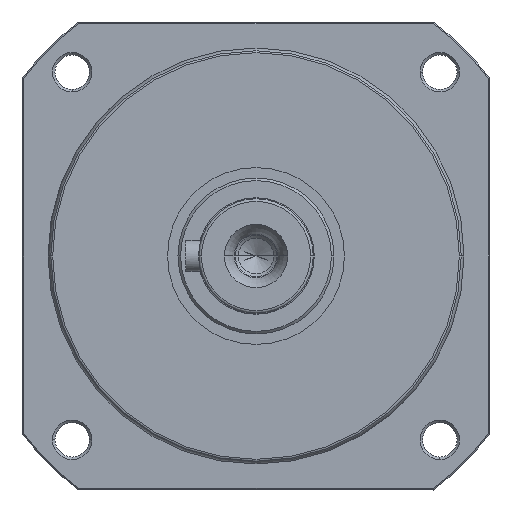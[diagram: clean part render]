
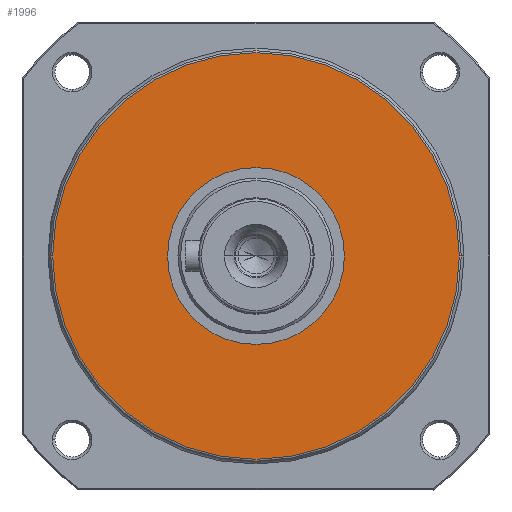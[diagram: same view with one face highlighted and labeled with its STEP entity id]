
A CAD part, left-side view. The second image highlights one B-rep face of the part: STEP entity #1996.
In plain terms, the highlighted planar face has unit normal (-1, 0, 0).
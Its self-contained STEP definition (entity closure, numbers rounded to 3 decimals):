
#1041=CARTESIAN_POINT('',(0.,0.,0.));
#1042=DIRECTION('',(-1.,0.,0.));
#1043=DIRECTION('',(0.,1.,0.));
#1044=AXIS2_PLACEMENT_3D('',#1041,#1042,#1043);
#1046=CARTESIAN_POINT('',(0.,0.,0.));
#1047=DIRECTION('',(-1.,0.,0.));
#1048=DIRECTION('',(0.,-1.,0.));
#1049=AXIS2_PLACEMENT_3D('',#1046,#1047,#1048);
#1957=CARTESIAN_POINT('',(0.,39.103,
0.));
#1958=CARTESIAN_POINT('',(0.,-39.103,
0.));
#1959=VERTEX_POINT('',#1957);
#1960=VERTEX_POINT('',#1958);
#1985=CARTESIAN_POINT('',(0.,0.,0.));
#1986=DIRECTION('',(1.,0.,0.));
#1987=DIRECTION('',(0.,-1.,0.));
#1988=AXIS2_PLACEMENT_3D('',#1985,#1986,#1987);
#1989=PLANE('',#1988);
#1991=ORIENTED_EDGE('',*,*,#1990,.F.);
#1993=ORIENTED_EDGE('',*,*,#1992,.F.);
#1994=EDGE_LOOP('',(#1991,#1993));
#1995=FACE_OUTER_BOUND('',#1994,.F.);
#1996=ADVANCED_FACE('',(#1995),#1989,.F.);
#1045=CIRCLE('',#1044,39.103);
#1050=CIRCLE('',#1049,39.103);
#1990=EDGE_CURVE('',#1959,#1960,#1045,.T.);
#1992=EDGE_CURVE('',#1960,#1959,#1050,.T.);
